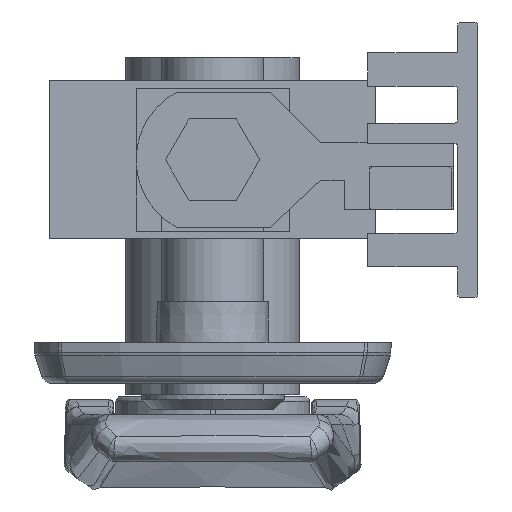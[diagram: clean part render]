
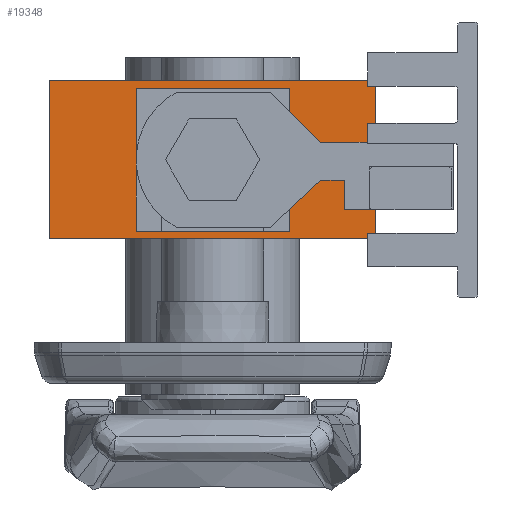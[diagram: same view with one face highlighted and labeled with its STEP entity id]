
A CAD part, front view. The second image highlights one B-rep face of the part: STEP entity #19348.
In plain terms, the highlighted planar face has unit normal (0, -1, 0).
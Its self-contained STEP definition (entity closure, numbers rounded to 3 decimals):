
#162 = DIRECTION ( 'NONE',  ( 0., 0., 1. ) ) ;
#2510 = VECTOR ( 'NONE', #31714, 1000. ) ;
#3877 = LINE ( 'NONE', #9109, #20368 ) ;
#4497 = ORIENTED_EDGE ( 'NONE', *, *, #8808, .F. ) ;
#4882 = FACE_OUTER_BOUND ( 'NONE', #30283, .T. ) ;
#5123 = VECTOR ( 'NONE', #15345, 1000. ) ;
#5557 = VERTEX_POINT ( 'NONE', #21674 ) ;
#5778 = AXIS2_PLACEMENT_3D ( 'NONE', #15188, #28420, #162 ) ;
#6400 = CARTESIAN_POINT ( 'NONE',  ( -16., -199.25, -7.75 ) ) ;
#6630 = EDGE_CURVE ( 'NONE', #13152, #22242, #16772, .T. ) ;
#6938 = VERTEX_POINT ( 'NONE', #22080 ) ;
#7256 = CARTESIAN_POINT ( 'NONE',  ( -16., -199.25, 7.75 ) ) ;
#7411 = VERTEX_POINT ( 'NONE', #28444 ) ;
#8116 = CARTESIAN_POINT ( 'NONE',  ( -7., -199.25, -6.25 ) ) ;
#8237 = CARTESIAN_POINT ( 'NONE',  ( 7., -199.25, 6.25 ) ) ;
#8293 = VERTEX_POINT ( 'NONE', #24264 ) ;
#8476 = VECTOR ( 'NONE', #25855, 1000. ) ;
#8808 = EDGE_CURVE ( 'NONE', #9734, #6938, #20615, .T. ) ;
#9058 = VECTOR ( 'NONE', #27384, 1000. ) ;
#9105 = VECTOR ( 'NONE', #9523, 1000. ) ;
#9109 = CARTESIAN_POINT ( 'NONE',  ( -16., -199.25, 7.75 ) ) ;
#9523 = DIRECTION ( 'NONE',  ( 1., 0., 0. ) ) ;
#9578 = ORIENTED_EDGE ( 'NONE', *, *, #19124, .F. ) ;
#9734 = VERTEX_POINT ( 'NONE', #12399 ) ;
#9811 = CARTESIAN_POINT ( 'NONE',  ( 7., -199.25, -6.25 ) ) ;
#10030 = CARTESIAN_POINT ( 'NONE',  ( -7., -199.25, -6.25 ) ) ;
#10258 = CARTESIAN_POINT ( 'NONE',  ( 16., -199.25, 7.75 ) ) ;
#10591 = PLANE ( 'NONE',  #5778 ) ;
#11925 = EDGE_LOOP ( 'NONE', ( #16769, #19968, #12529, #20532 ) ) ;
#12399 = CARTESIAN_POINT ( 'NONE',  ( 16., -199.25, 7.75 ) ) ;
#12529 = ORIENTED_EDGE ( 'NONE', *, *, #23013, .F. ) ;
#13152 = VERTEX_POINT ( 'NONE', #8116 ) ;
#13475 = LINE ( 'NONE', #8237, #28804 ) ;
#13735 = VERTEX_POINT ( 'NONE', #6400 ) ;
#14851 = DIRECTION ( 'NONE',  ( 0., 0., -1. ) ) ;
#15188 = CARTESIAN_POINT ( 'NONE',  ( -16., -199.25, 7.75 ) ) ;
#15345 = DIRECTION ( 'NONE',  ( 0., 0., -1. ) ) ;
#16769 = ORIENTED_EDGE ( 'NONE', *, *, #22014, .F. ) ;
#16772 = LINE ( 'NONE', #10030, #9105 ) ;
#18019 = CARTESIAN_POINT ( 'NONE',  ( -7., -199.25, -6.25 ) ) ;
#18616 = EDGE_CURVE ( 'NONE', #13735, #6938, #29009, .T. ) ;
#19124 = EDGE_CURVE ( 'NONE', #5557, #9734, #3877, .T. ) ;
#19159 = EDGE_CURVE ( 'NONE', #5557, #13735, #28102, .T. ) ;
#19348 = ADVANCED_FACE ( 'NONE', ( #23506, #4882 ), #10591, .F. ) ;
#19438 = DIRECTION ( 'NONE',  ( 1., 0., 0. ) ) ;
#19968 = ORIENTED_EDGE ( 'NONE', *, *, #29777, .F. ) ;
#20368 = VECTOR ( 'NONE', #19438, 1000. ) ;
#20532 = ORIENTED_EDGE ( 'NONE', *, *, #6630, .F. ) ;
#20615 = LINE ( 'NONE', #10258, #5123 ) ;
#21674 = CARTESIAN_POINT ( 'NONE',  ( -16., -199.25, 7.75 ) ) ;
#22014 = EDGE_CURVE ( 'NONE', #7411, #13152, #30783, .T. ) ;
#22080 = CARTESIAN_POINT ( 'NONE',  ( 16., -199.25, -7.75 ) ) ;
#22242 = VERTEX_POINT ( 'NONE', #9811 ) ;
#23013 = EDGE_CURVE ( 'NONE', #22242, #8293, #30620, .T. ) ;
#23421 = CARTESIAN_POINT ( 'NONE',  ( -16., -199.25, -7.75 ) ) ;
#23506 = FACE_BOUND ( 'NONE', #11925, .T. ) ;
#23511 = DIRECTION ( 'NONE',  ( -1., 0., 0. ) ) ;
#24264 = CARTESIAN_POINT ( 'NONE',  ( 7., -199.25, 6.25 ) ) ;
#25855 = DIRECTION ( 'NONE',  ( 0., 0., -1. ) ) ;
#27384 = DIRECTION ( 'NONE',  ( 0., 0., 1. ) ) ;
#27554 = CARTESIAN_POINT ( 'NONE',  ( 7., -199.25, 6.25 ) ) ;
#28102 = LINE ( 'NONE', #7256, #31755 ) ;
#28420 = DIRECTION ( 'NONE',  ( 0., 1., 0. ) ) ;
#28444 = CARTESIAN_POINT ( 'NONE',  ( -7., -199.25, 6.25 ) ) ;
#28804 = VECTOR ( 'NONE', #23511, 1000. ) ;
#29009 = LINE ( 'NONE', #23421, #2510 ) ;
#29777 = EDGE_CURVE ( 'NONE', #8293, #7411, #13475, .T. ) ;
#30226 = ORIENTED_EDGE ( 'NONE', *, *, #19159, .T. ) ;
#30283 = EDGE_LOOP ( 'NONE', ( #31366, #4497, #9578, #30226 ) ) ;
#30620 = LINE ( 'NONE', #27554, #9058 ) ;
#30783 = LINE ( 'NONE', #18019, #8476 ) ;
#31366 = ORIENTED_EDGE ( 'NONE', *, *, #18616, .T. ) ;
#31714 = DIRECTION ( 'NONE',  ( 1., 0., 0. ) ) ;
#31755 = VECTOR ( 'NONE', #14851, 1000. ) ;
